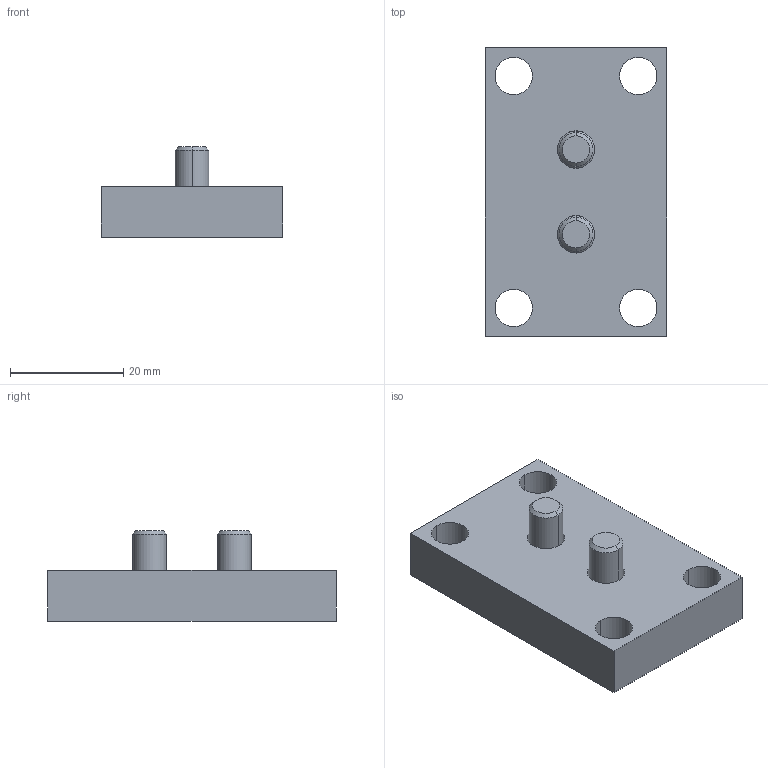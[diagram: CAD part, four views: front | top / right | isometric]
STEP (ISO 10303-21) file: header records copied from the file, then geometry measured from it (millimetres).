
FILE_DESCRIPTION(/* description */ (''),/* implementation_level */ '2;1');
FILE_NAME(/* name */ '3d_am-32_03184_r00.stp',/* time_stamp */ '2011-01-10T14:17:47+09:00',/* author */ ('MISUMI'),/* organization */ (''),/* preprocessor_version */ 'ST-DEVELOPER v11',/* originating_system */ 'UGS - NX 5.0',/* authorisation */ '');
FILE_SCHEMA (('CONFIG_CONTROL_DESIGN'));
Length unit declared in the file: millimetre
Products named in the file (1): 3d_am-32_03184_r00
Bounding box: 32 x 51 x 16 mm (x, y, z)
Volume: 13689.7 mm3; surface area: 6502.2 mm2
Topology: 3 solids, 3 shells, 52 faces, 120 edges, 76 vertices
Faces by surface type: plane 24, cylinder 16, cone 12
Entity records: 1578 total; most frequent: DIRECTION 270, CARTESIAN_POINT 249, ORIENTED_EDGE 240, EDGE_CURVE 120, AXIS2_PLACEMENT_3D 97, VERTEX_POINT 76, LINE 76, VECTOR 76
